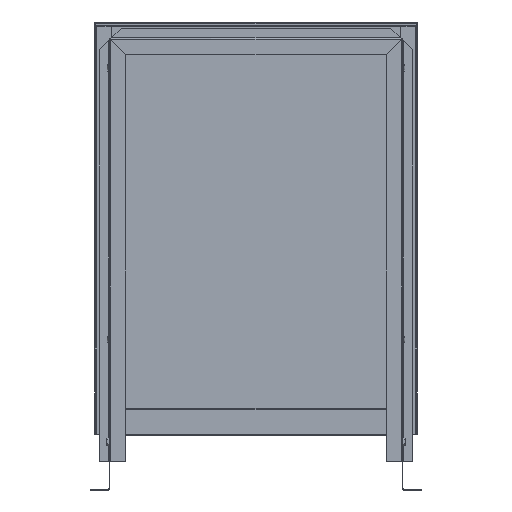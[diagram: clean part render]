
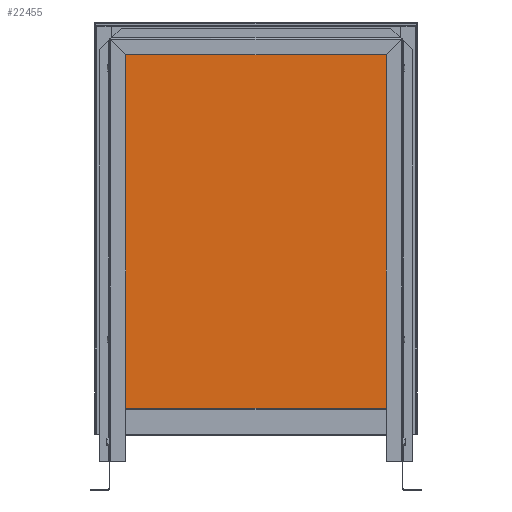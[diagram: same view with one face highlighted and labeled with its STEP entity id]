
A CAD part, front view. The second image highlights one B-rep face of the part: STEP entity #22455.
In plain terms, the highlighted planar face has unit normal (0, -1, 0).
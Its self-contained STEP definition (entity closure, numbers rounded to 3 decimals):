
#16622=CARTESIAN_POINT('',(222.271,0.8,647.2));
#16623=VERTEX_POINT('',#16622);
#16630=CARTESIAN_POINT('',(200.,0.8,624.929));
#16631=VERTEX_POINT('',#16630);
#16632=CARTESIAN_POINT('',(222.271,0.8,647.2));
#16633=DIRECTION('',(-0.707,-0.,-0.707));
#16634=VECTOR('',#16633,31.496);
#16635=LINE('',#16632,#16634);
#16636=EDGE_CURVE('',#16623,#16631,#16635,.T.);
#16687=CARTESIAN_POINT('',(200.,0.8,81.8));
#16688=VERTEX_POINT('',#16687);
#16821=CARTESIAN_POINT('',(200.,0.8,81.8));
#16822=DIRECTION('',(-0.,0.,1.));
#16823=VECTOR('',#16822,543.129);
#16824=LINE('',#16821,#16823);
#16825=EDGE_CURVE('',#16688,#16631,#16824,.T.);
#17457=CARTESIAN_POINT('',(199.929,0.8,625.));
#17458=VERTEX_POINT('',#17457);
#17465=CARTESIAN_POINT('',(222.129,0.8,647.2));
#17466=VERTEX_POINT('',#17465);
#17467=CARTESIAN_POINT('',(199.929,0.8,625.));
#17468=DIRECTION('',(0.707,0.,0.707));
#17469=VECTOR('',#17468,31.396);
#17470=LINE('',#17467,#17469);
#17471=EDGE_CURVE('',#17458,#17466,#17470,.T.);
#18735=CARTESIAN_POINT('',(-222.129,0.8,647.2));
#18736=VERTEX_POINT('',#18735);
#19815=CARTESIAN_POINT('',(-199.929,0.8,625.));
#19816=VERTEX_POINT('',#19815);
#19823=CARTESIAN_POINT('',(199.929,0.8,625.));
#19824=DIRECTION('',(-1.,0.,0.));
#19825=VECTOR('',#19824,399.859);
#19826=LINE('',#19823,#19825);
#19827=EDGE_CURVE('',#17458,#19816,#19826,.T.);
#19858=CARTESIAN_POINT('',(-222.129,0.8,647.2));
#19859=DIRECTION('',(0.707,-0.,-0.707));
#19860=VECTOR('',#19859,31.396);
#19861=LINE('',#19858,#19860);
#19862=EDGE_CURVE('',#18736,#19816,#19861,.T.);
#22285=CARTESIAN_POINT('',(-200.,0.8,624.929));
#22286=VERTEX_POINT('',#22285);
#22293=CARTESIAN_POINT('',(-222.271,0.8,647.2));
#22294=VERTEX_POINT('',#22293);
#22295=CARTESIAN_POINT('',(-200.,0.8,624.929));
#22296=DIRECTION('',(-0.707,0.,0.707));
#22297=VECTOR('',#22296,31.496);
#22298=LINE('',#22295,#22297);
#22299=EDGE_CURVE('',#22286,#22294,#22298,.T.);
#22316=CARTESIAN_POINT('',(-200.,0.8,81.8));
#22317=VERTEX_POINT('',#22316);
#22384=CARTESIAN_POINT('',(-200.,0.8,624.929));
#22385=DIRECTION('',(0.,0.,-1.));
#22386=VECTOR('',#22385,543.129);
#22387=LINE('',#22384,#22386);
#22388=EDGE_CURVE('',#22286,#22317,#22387,.T.);
#22423=CARTESIAN_POINT('',(0.,0.8,0.));
#22424=DIRECTION('',(0.,1.,0.));
#22425=DIRECTION('',(-1.,0.,0.));
#22426=AXIS2_PLACEMENT_3D('',#22423,#22424,#22425);
#22427=PLANE('',#22426);
#22428=CARTESIAN_POINT('',(200.,0.8,81.8));
#22429=DIRECTION('',(-1.,0.,0.));
#22430=VECTOR('',#22429,400.);
#22431=LINE('',#22428,#22430);
#22432=EDGE_CURVE('',#16688,#22317,#22431,.T.);
#22433=ORIENTED_EDGE('',*,*,#22432,.F.);
#22434=ORIENTED_EDGE('',*,*,#16825,.T.);
#22435=ORIENTED_EDGE('',*,*,#16636,.F.);
#22436=CARTESIAN_POINT('',(222.129,0.8,647.2));
#22437=DIRECTION('',(1.,0.,-0.));
#22438=VECTOR('',#22437,0.141);
#22439=LINE('',#22436,#22438);
#22440=EDGE_CURVE('',#17466,#16623,#22439,.T.);
#22441=ORIENTED_EDGE('',*,*,#22440,.F.);
#22442=ORIENTED_EDGE('',*,*,#17471,.F.);
#22443=ORIENTED_EDGE('',*,*,#19827,.T.);
#22444=ORIENTED_EDGE('',*,*,#19862,.F.);
#22445=CARTESIAN_POINT('',(-222.271,0.8,647.2));
#22446=DIRECTION('',(1.,0.,-0.));
#22447=VECTOR('',#22446,0.141);
#22448=LINE('',#22445,#22447);
#22449=EDGE_CURVE('',#22294,#18736,#22448,.T.);
#22450=ORIENTED_EDGE('',*,*,#22449,.F.);
#22451=ORIENTED_EDGE('',*,*,#22299,.F.);
#22452=ORIENTED_EDGE('',*,*,#22388,.T.);
#22453=EDGE_LOOP('',(#22433,#22434,#22435,#22441,#22442,#22443,#22444,#22450,#22451,#22452));
#22454=FACE_BOUND('',#22453,.T.);
#22455=ADVANCED_FACE('',(#22454),#22427,.F.);
